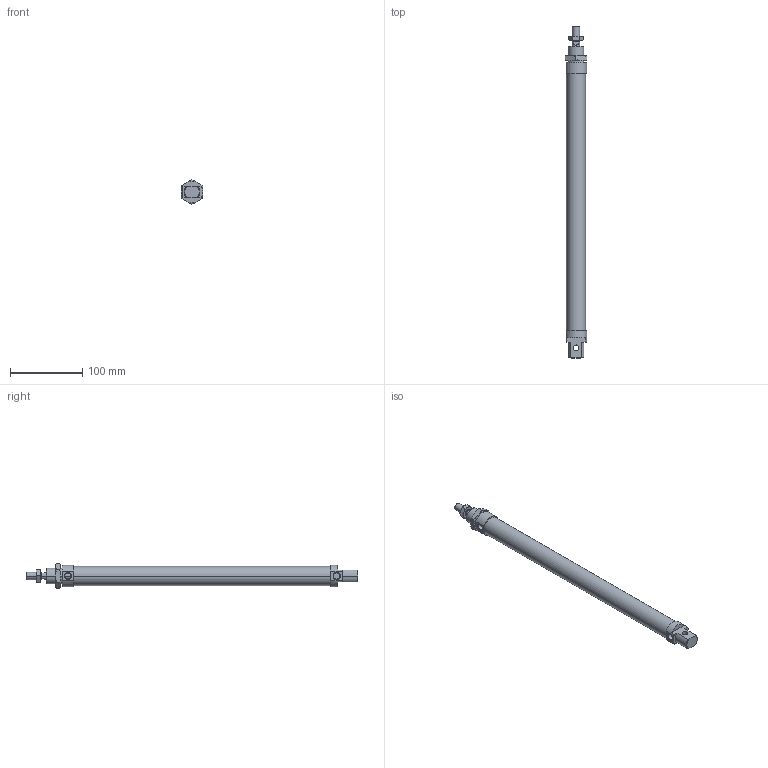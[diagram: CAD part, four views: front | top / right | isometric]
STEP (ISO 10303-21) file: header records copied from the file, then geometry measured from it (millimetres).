
FILE_DESCRIPTION((''),'2;1');
FILE_NAME('I:\DOC-EDP\Lib-3d\1200\CILINDRI\1280\1280_25_0320.stp','2003-04-07T18:01:03',('maffial1'),(''),'Autodesk Inventor (R) 6.0','Autodesk Inventor (R) 6.0','');
FILE_SCHEMA(('AUTOMOTIVE_DESIGN { 1 0 10303 214 1 1 1 1 }'));
Length unit declared in the file: millimetre
Products named in the file (5): 1280_25_0320; S1280_25_320; 1200_25_05; 1200_25_06; C1280_25_320
Assembly tree (4 placements, depth 2):
  1280_25_0320
    S1280_25_320
    1200_25_05
    1200_25_06
    C1280_25_320
Bounding box: 30 x 460 x 34.64 mm (x, y, z)
Volume: 236581.8 mm3; surface area: 64172.9 mm2
Topology: 4 solids, 4 shells, 124 faces, 281 edges, 170 vertices
Faces by surface type: plane 41, cone 40, cylinder 22, bspline 21
Entity records: 3808 total; most frequent: CARTESIAN_POINT 1031, DIRECTION 573, ORIENTED_EDGE 562, EDGE_CURVE 281, AXIS2_PLACEMENT_3D 236, VERTEX_POINT 170, EDGE_LOOP 137, FACE_OUTER_BOUND 124
